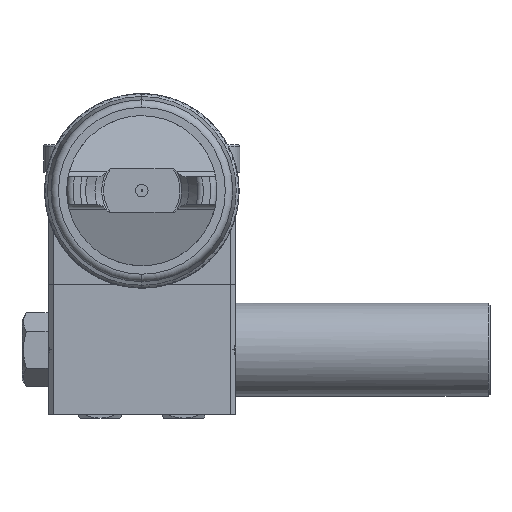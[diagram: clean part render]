
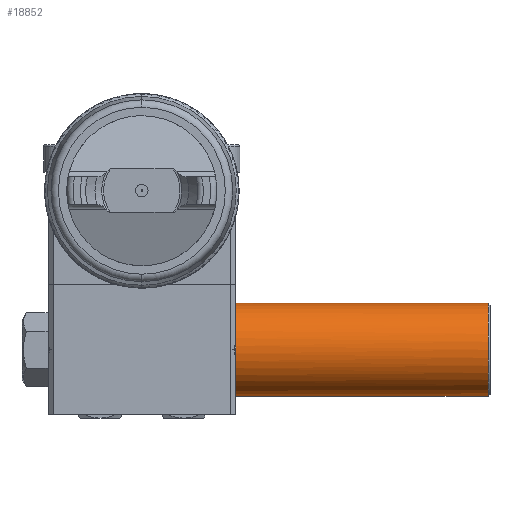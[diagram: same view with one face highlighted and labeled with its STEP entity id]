
A CAD part, top view. The second image highlights one B-rep face of the part: STEP entity #18852.
In plain terms, the highlighted cylindrical face has radius 9.461 mm (diameter 18.923 mm), a partial arc.
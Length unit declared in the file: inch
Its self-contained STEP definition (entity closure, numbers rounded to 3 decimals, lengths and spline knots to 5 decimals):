
#18611=DIRECTION('',(-1.,0.,0.));
#18612=VECTOR('',#18611,2.11);
#18613=CARTESIAN_POINT('',(2.77,-1.6425,
0.534));
#18614=LINE('',#18613,#18612);
#18615=CARTESIAN_POINT('',(2.77,-1.27,0.534));
#18616=DIRECTION('',(1.,0.,0.));
#18617=DIRECTION('',(0.,1.,0.));
#18618=AXIS2_PLACEMENT_3D('',#18615,#18616,#18617);
#18620=DIRECTION('',(1.,0.,0.));
#18621=VECTOR('',#18620,0.09);
#18622=CARTESIAN_POINT('',(0.66,-1.6373,0.596));
#18623=LINE('',#18622,#18621);
#18624=CARTESIAN_POINT('',(0.75,-1.27,0.534));
#18625=DIRECTION('',(-1.,0.,0.));
#18626=DIRECTION('',(0.,-0.986,0.166));
#18627=AXIS2_PLACEMENT_3D('',#18624,#18625,#18626);
#18629=DIRECTION('',(-1.,0.,0.));
#18630=VECTOR('',#18629,0.09);
#18631=CARTESIAN_POINT('',(0.75,-0.9027,0.596));
#18632=LINE('',#18631,#18630);
#18633=DIRECTION('',(-1.,0.,0.));
#18634=VECTOR('',#18633,2.11);
#18635=CARTESIAN_POINT('',(2.77,-0.8975,
0.534));
#18636=LINE('',#18635,#18634);
#18641=CARTESIAN_POINT('',(0.66,-1.27,0.534));
#18642=DIRECTION('',(1.,0.,0.));
#18643=DIRECTION('',(0.,-0.986,0.166));
#18644=AXIS2_PLACEMENT_3D('',#18641,#18642,#18643);
#18664=CARTESIAN_POINT('',(0.66,-1.27,0.534));
#18665=DIRECTION('',(1.,0.,0.));
#18666=DIRECTION('',(0.,1.,0.));
#18667=AXIS2_PLACEMENT_3D('',#18664,#18665,#18666);
#18725=CARTESIAN_POINT('',(0.75,-1.6373,0.596));
#18726=CARTESIAN_POINT('',(0.75,-0.9027,0.596));
#18727=VERTEX_POINT('',#18725);
#18728=VERTEX_POINT('',#18726);
#18729=CARTESIAN_POINT('',(0.66,-0.9027,0.596));
#18730=VERTEX_POINT('',#18729);
#18731=CARTESIAN_POINT('',(0.66,-1.6373,0.596));
#18732=VERTEX_POINT('',#18731);
#18741=CARTESIAN_POINT('',(0.66,-0.8975,0.534));
#18742=VERTEX_POINT('',#18741);
#18743=CARTESIAN_POINT('',(0.66,-1.6425,0.534));
#18744=VERTEX_POINT('',#18743);
#18749=CARTESIAN_POINT('',(2.77,-0.8975,0.534));
#18750=CARTESIAN_POINT('',(2.77,-1.6425,0.534));
#18751=VERTEX_POINT('',#18749);
#18752=VERTEX_POINT('',#18750);
#18832=CARTESIAN_POINT('',(2.785,-1.27,0.534));
#18833=DIRECTION('',(1.,0.,0.));
#18834=DIRECTION('',(0.,1.,0.));
#18835=AXIS2_PLACEMENT_3D('',#18832,#18833,#18834);
#18836=CYLINDRICAL_SURFACE('',#18835,0.3725);
#18837=ORIENTED_EDGE('',*,*,#18789,.T.);
#18838=ORIENTED_EDGE('',*,*,#18827,.T.);
#18840=ORIENTED_EDGE('',*,*,#18839,.F.);
#18842=ORIENTED_EDGE('',*,*,#18841,.T.);
#18844=ORIENTED_EDGE('',*,*,#18843,.T.);
#18846=ORIENTED_EDGE('',*,*,#18845,.T.);
#18848=ORIENTED_EDGE('',*,*,#18847,.F.);
#18849=ORIENTED_EDGE('',*,*,#18815,.F.);
#18850=EDGE_LOOP('',(#18837,#18838,#18840,#18842,#18844,#18846,#18848,#18849));
#18851=FACE_OUTER_BOUND('',#18850,.F.);
#18852=ADVANCED_FACE('',(#18851),#18836,.T.);
#18619=CIRCLE('',#18618,0.3725);
#18628=CIRCLE('',#18627,0.3725);
#18645=CIRCLE('',#18644,0.3725);
#18668=CIRCLE('',#18667,0.3725);
#18789=EDGE_CURVE('',#18751,#18752,#18619,.T.);
#18815=EDGE_CURVE('',#18751,#18742,#18636,.T.);
#18827=EDGE_CURVE('',#18752,#18744,#18614,.T.);
#18839=EDGE_CURVE('',#18732,#18744,#18645,.T.);
#18841=EDGE_CURVE('',#18732,#18727,#18623,.T.);
#18843=EDGE_CURVE('',#18727,#18728,#18628,.T.);
#18845=EDGE_CURVE('',#18728,#18730,#18632,.T.);
#18847=EDGE_CURVE('',#18742,#18730,#18668,.T.);
